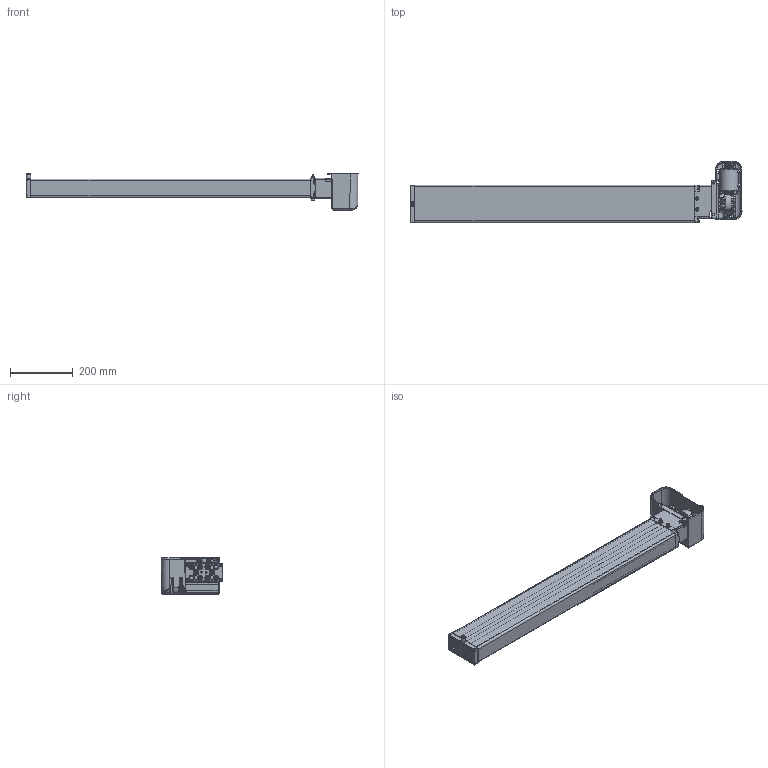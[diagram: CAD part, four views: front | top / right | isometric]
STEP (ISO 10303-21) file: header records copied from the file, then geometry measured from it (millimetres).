
FILE_DESCRIPTION(/* description */ ('Unknown'),/* implementation_level */ '2;1');
FILE_NAME(/* name */ '3X2.20195 Pumpe PB 8440 W mit Antrieb',/* time_stamp */ '2016-11-24T17:01:53+01:00',/* author */ ('Unknown'),/* organization */ ('Unknown'),/* preprocessor_version */ 'ST-DEVELOPER v16.7',/* originating_system */ 'DEX',/* authorisation */ $);
FILE_SCHEMA (('AUTOMOTIVE_DESIGN {1 0 10303 214 3 1 1}'));
Products named in the file (32): 102.00195; 115.10027; 125.00031; 115.00007; 142.00021; 125.00021; 142.00013; 125.00147; 115.00140; 126.00006; 122.00040; 119.00047; 126.00036; 127.00201; 127.00200; 127.00023; 124.00090; Getriebe; Ring; Schraube; Stator; Abdeckplatte; Antriebswelle; 128.00051; 123.00031; 142.00018; 142.00019; 142.00025; 142.00131; 123.00029; 142.00057; 142.00017
Assembly tree (51 placements, depth 3):
  102.00195
    115.10027  x8
      125.00031
      115.00007
      142.00021
      125.00021
    142.00013  x8
    125.00147
    115.00140
      126.00006
      122.00040
    119.00047
    126.00036
    127.00201
      127.00200
      127.00023
    124.00090
      Getriebe
      Ring
      Schraube
      Stator
      Abdeckplatte
      Antriebswelle
    128.00051
    123.00031
    142.00018  x2
    142.00019  x2
    142.00025  x2
    142.00131  x3
    123.00029
    142.00057
    142.00017  x2
Bounding box: 1059.45 x 196.04 x 115.45 mm (x, y, z)
Volume: 1573612.6 mm3; surface area: 1054350.5 mm2
Topology: 60 solids, 62 shells, 4362 faces, 10958 edges, 6721 vertices
Faces by surface type: plane 1355, cylinder 1182, bspline 1040, cone 491, torus 196, sphere 98
Full cylindrical faces by diameter (mm): 2.5 x4, 3.2 x4, 3.5 x8, 3.9 x5, 4.1 x8, 4.134 x4, 4.2 x10, 4.4 x5, 4.5 x1, 4.917 x4, 5 x8, 5.5 x5, 5.8 x4, 6 x8, 6.4 x2, 6.8 x6, 6.917 x16, 7 x1, 8 x18, 8.5 x6, 9 x10, 9.5 x1, 9.8 x8, 10 x10, 10.3 x1, 10.32 x1, 10.4 x1, 10.5 x4, 11 x5, 12.5 x8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
Entity records: 164936 total; most frequent: CARTESIAN_POINT 80620, ORIENTED_EDGE 16008, DIRECTION 12023, EDGE_CURVE 8004, VERTEX_POINT 5254, AXIS2_PLACEMENT_3D 4655, FACE_BOUND 4000, EDGE_LOOP 3995
